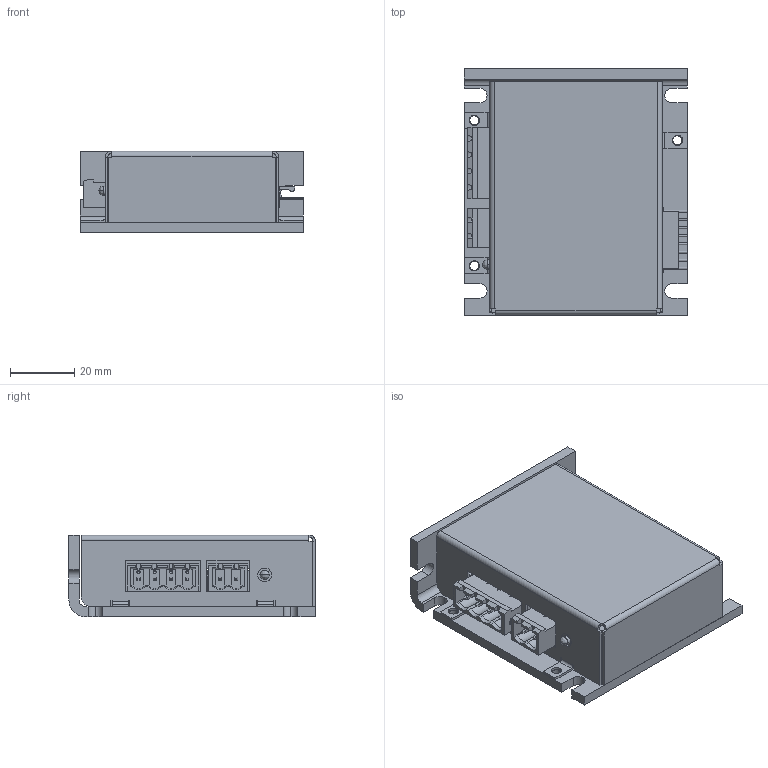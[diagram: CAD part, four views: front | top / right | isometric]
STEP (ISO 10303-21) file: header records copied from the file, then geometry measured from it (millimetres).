
FILE_DESCRIPTION (( 'STEP AP214' ), '1' );
FILE_NAME ('ACE-SDX-external.STEP', '2011-08-01T16:58:07', ( '' ), ( '' ), 'SwSTEP 2.0', 'SolidWorks 2011', '' );
FILE_SCHEMA (( 'AUTOMOTIVE_DESIGN' ));
Length unit declared in the file: inch
Products named in the file (7): SW3dPS-Connector Type-K 8-Pin rt angle; SW3dPS-65-187, LED1x1,Y; mstba_2.5-hc-4-g-5.9; mstba_2.5-2-g; ACE-SDX-COVER; ACE-BASE-PLATE; ACE-SDX-external
Assembly tree (6 placements, depth 2):
  ACE-SDX-external
    mstba_2.5-hc-4-g-5.9
    ACE-BASE-PLATE
    mstba_2.5-2-g
    SW3dPS-65-187, LED1x1,Y
    SW3dPS-Connector Type-K 8-Pin rt angle
    ACE-SDX-COVER
Bounding box: 69.85 x 76.83 x 25.4 mm (x, y, z)
Volume: 27335.1 mm3; surface area: 33893.8 mm2
Topology: 4 solids, 12 shells, 675 faces, 1714 edges, 1091 vertices
Faces by surface type: plane 504, cylinder 155, bspline 10, cone 6
Entity records: 29195 total; most frequent: CARTESIAN_POINT 3714, DIRECTION 3386, ORIENTED_EDGE 3352, EDGE_CURVE 1704, LINE 1316, VECTOR 1316, VERTEX_POINT 1091, AXIS2_PLACEMENT_3D 1035
